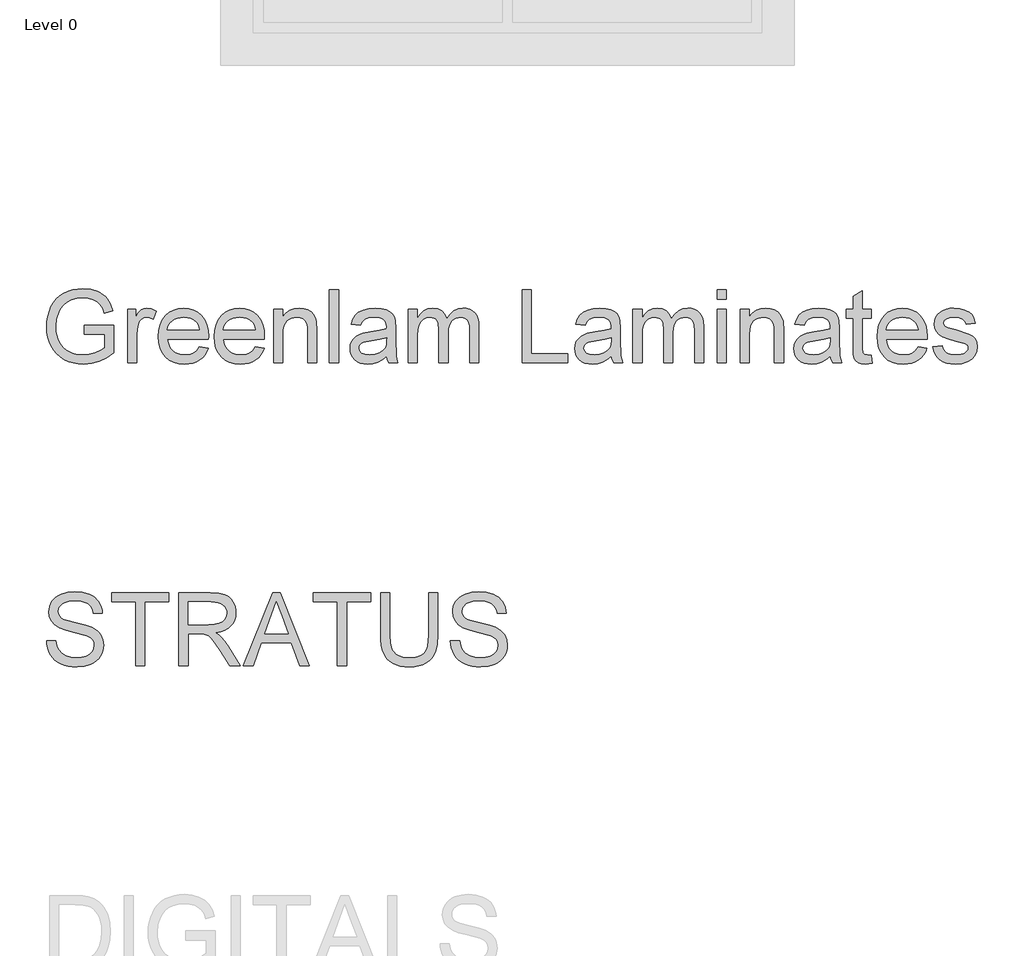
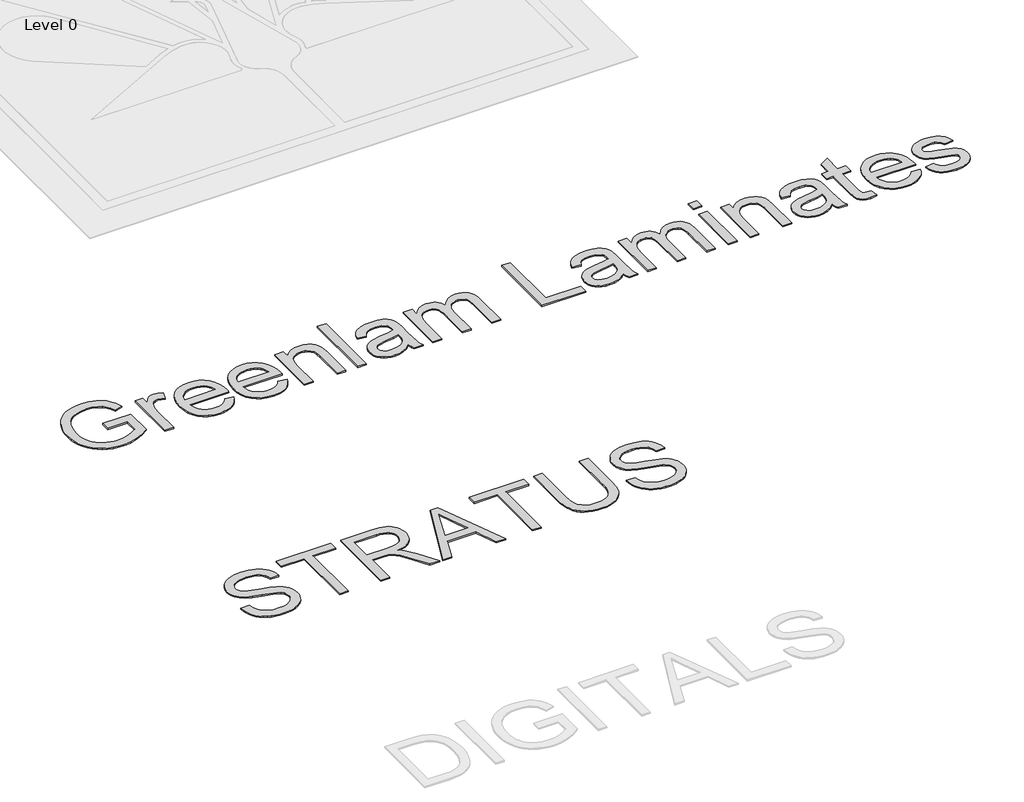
# One storey, part 2 of 2: 2 proxies.
"""IFC4 building model written with IfcOpenShell, lengths in millimetres."""

from ifc_helpers import new_model, si_unit, origin, origin_with_axes, place, context, project, spatial, polyline, outline, extrude, element, save

model = new_model("IFC4")

# Units and contexts
model_context = context("Model", 3, world=origin())
ifc_project = project(units=[si_unit("LENGTHUNIT", "METRE", prefix="MILLI")], contexts=[model_context])

# Site, building, storey
site = spatial("IfcSite", under=ifc_project)
building = spatial("IfcBuilding", under=site)
storey = spatial("IfcBuildingStorey", under=building, Name="Level 0", Elevation=0.0)

# Proxies
placement = place(None, origin())
element("IfcBuildingElementProxy", 1, Name="600mm Arial", ObjectType="600mm Arial", at=placement, inside=storey, context=model_context, shape_type="SweptSolid", body=[
    extrude(outline(polyline([(-10594.9298129, 2995.5724296), (-10594.9298129, 3070.9146622), (-10350.067557, 3070.9146622), (-10350.067557, 2845.6237284), (-10409.5724697, 2804.2370039), (-10470.9535806, 2774.5489269), (-10534.0637368, 2756.6698619), (-10598.7557857, 2750.7101736), (-10642.0325039, 2753.0784139), (-10683.2766741, 2760.183135), (-10722.4882962, 2772.0243367), (-10759.6673704, 2788.6020191), (-10793.6136815, 2809.6678618), (-10823.1270146, 2834.9735446), (-10848.2073696, 2864.5190673), (-10868.8547466, 2898.3044301), (-10884.9817735, 2935.2489794), (-10896.5010785, 2974.2720621), (-10903.4126615, 3015.373678), (-10905.7165225, 3058.5538272), (-10903.4218585, 3101.7385749), (-10896.5378667, 3143.4425975), (-10885.064547, 3183.6658952), (-10869.0018994, 3222.4084678), (-10848.6350324, 3257.9688612), (-10824.2490546, 3288.645621), (-10795.8439661, 3314.4387474), (-10763.4197667, 3335.3482403), (-10727.6800309, 3351.507457), (-10689.3283329, 3363.0497546), (-10648.3646727, 3369.9751331), (-10604.7890504, 3372.2835926), (-10542.7273578, 3366.9309096), (-10486.9196592, 3350.8728605), (-10462.0002525, 3339.1190308), (-10439.9227343, 3325.2682737), (-10420.6871045, 3309.3205892), (-10404.293363, 3291.2759773), (-10377.9346181, 3247.2588966), (-10358.749572, 3191.5799566), (-10428.2056927, 3172.0086345), (-10443.7119188, 3211.7214959), (-10462.5658711, 3241.6854844), (-10487.5082704, 3264.2734389), (-10521.2798375, 3281.8581982), (-10561.5445219, 3293.1705696), (-10605.9662728, 3296.94136), (-10657.9663928, 3292.876264), (-10702.4249319, 3280.6809758), (-10739.1763433, 3261.8822059), (-10768.0550799, 3238.0066644), (-10790.2199701, 3210.2867561), (-10806.8298422, 3179.9548856), (-10824.4881779, 3123.0803291), (-10830.3742899, 3061.6440359), (-10828.6038578, 3024.0235034), (-10823.2925615, 2989.5943472), (-10814.4404009, 2958.3565672), (-10802.0473762, 2930.3101636), (-10786.2744357, 2905.5609024), (-10767.2825277, 2884.2145496), (-10745.0716522, 2866.2711053), (-10719.6418093, 2851.7305695), (-10692.1840169, 2840.496373), (-10663.8892929, 2832.471947), (-10634.7576374, 2827.6572914), (-10604.7890504, 2826.0524062), (-10552.6049894, 2830.8900544), (-10501.7085154, 2845.4029992), (-10457.5074936, 2865.3973856), (-10425.4097896, 2886.679359), (-10425.4097896, 2995.5724296), (-10594.9298129, 2995.5724296)])), origin_with_axes(), (0.0, 0.0, 1.0), 10.0),
    extrude(outline(polyline([(-10237.054208, 2760.1279527), (-10237.054208, 3202.7635693), (-10171.1297545, 3202.7635693), (-10171.1297545, 3137.2805741), (-10146.7759664, 3175.245996), (-10124.3351647, 3197.6132213), (-10101.8207866, 3208.5393166), (-10077.2462693, 3212.1813483), (-10039.7223058, 3206.3688128), (-10001.6097311, 3188.9312062), (-10026.7728596, 3121.3880719), (-10053.2603632, 3132.9763548), (-10079.7478669, 3136.8391157), (-10102.2438509, 3133.1235076), (-10122.3486019, 3121.9766831), (-10138.590592, 3104.244771), (-10149.4982932, 3080.7738997), (-10158.6585549, 3038.6881994), (-10161.7119754, 2992.7765264), (-10161.7119754, 2760.1279527), (-10237.054208, 2760.1279527)])), origin_with_axes(), (0.0, 0.0, 1.0), 10.0),
    extrude(outline(polyline([(-9644.617043, 2891.9768597), (-9570.7463384, 2882.5590807), (-9582.0725053, 2852.9721712), (-9597.3626007, 2826.8985348), (-9616.6166246, 2804.3381714), (-9639.8345771, 2785.2910811), (-9666.7773347, 2770.1619341), (-9697.2057742, 2759.3554005), (-9731.1198956, 2752.8714803), (-9768.519699, 2750.7101736), (-9815.2683035, 2754.4395773), (-9856.9217424, 2765.6277885), (-9893.4800157, 2784.2748071), (-9924.9431233, 2810.3806332), (-9950.2442075, 2843.2186998), (-9968.3164106, 2882.06244), (-9979.1597324, 2926.9118537), (-9982.774173, 2977.766941), (-9979.1229442, 3030.3464752), (-9968.1692578, 3076.6904095), (-9949.9131138, 3116.798744), (-9924.3545121, 3150.6714788), (-9892.9741779, 3177.5820467), (-9857.2528362, 3196.8038809), (-9817.1904869, 3208.3369815), (-9772.7871301, 3212.1813483), (-9729.8139146, 3208.3461785), (-9690.9517803, 3196.8406691), (-9656.2007273, 3177.6648201), (-9625.5607557, 3150.8186315), (-9600.5493785, 3117.0194732), (-9582.6841091, 3076.9847151), (-9571.9649475, 3030.7143572), (-9568.3918936, 2978.2083994), (-9568.833352, 2957.9013133), (-9907.4319404, 2957.9013133), (-9903.0679402, 2927.8361572), (-9894.3905236, 2901.5050034), (-9881.3996907, 2878.9078519), (-9864.0954413, 2860.0447026), (-9843.4342688, 2845.1730729), (-9820.3726662, 2834.5504803), (-9794.9106336, 2828.1769247), (-9767.048171, 2826.0524062), (-9726.9490335, 2829.9887436), (-9693.1774664, 2841.7977556), (-9665.7334695, 2862.2152063), (-9644.617043, 2891.9768597)]), holes=[polyline([(-9907.4319404, 3033.2435459), (-9643.7341262, 3033.2435459), (-9653.9244575, 3073.0483778), (-9662.689246, 3088.7017567), (-9673.9004498, 3101.5224442), (-9694.4466593, 3116.973488), (-9717.82556, 3128.0099478), (-9744.0371522, 3134.6318238), (-9773.0814357, 3136.8391157), (-9799.5735379, 3135.0778807), (-9823.8675452, 3129.7941755), (-9845.9634575, 3120.9880003), (-9865.8612749, 3108.6593549), (-9882.558519, 3093.3784565), (-9895.0527112, 3075.7155222), (-9903.3438517, 3055.670552), (-9907.4319404, 3033.2435459)])]), origin_with_axes(), (0.0, 0.0, 1.0), 10.0),
    extrude(outline(polyline([(-9183.1458683, 2891.9768597), (-9109.2751636, 2882.5590807), (-9120.6013305, 2852.9721712), (-9135.891426, 2826.8985348), (-9155.1454499, 2804.3381714), (-9178.3634023, 2785.2910811), (-9205.3061599, 2770.1619341), (-9235.7345995, 2759.3554005), (-9269.6487209, 2752.8714803), (-9307.0485242, 2750.7101736), (-9353.7971288, 2754.4395773), (-9395.4505677, 2765.6277885), (-9432.0088409, 2784.2748071), (-9463.4719486, 2810.3806332), (-9488.7730328, 2843.2186998), (-9506.8452358, 2882.06244), (-9517.6885576, 2926.9118537), (-9521.3029982, 2977.766941), (-9517.6517694, 3030.3464752), (-9506.698083, 3076.6904095), (-9488.441939, 3116.798744), (-9462.8833374, 3150.6714788), (-9431.5030032, 3177.5820467), (-9395.7816615, 3196.8038809), (-9355.7193122, 3208.3369815), (-9311.3159554, 3212.1813483), (-9268.3427398, 3208.3461785), (-9229.4806055, 3196.8406691), (-9194.7295526, 3177.6648201), (-9164.0895809, 3150.8186315), (-9139.0782038, 3117.0194732), (-9121.2129344, 3076.9847151), (-9110.4937727, 3030.7143572), (-9106.9207189, 2978.2083994), (-9107.3621772, 2957.9013133), (-9445.9607656, 2957.9013133), (-9441.5967654, 2927.8361572), (-9432.9193489, 2901.5050034), (-9419.9285159, 2878.9078519), (-9402.6242666, 2860.0447026), (-9381.963094, 2845.1730729), (-9358.9014915, 2834.5504803), (-9333.4394589, 2828.1769247), (-9305.5769962, 2826.0524062), (-9265.4778588, 2829.9887436), (-9231.7062916, 2841.7977556), (-9204.2622948, 2862.2152063), (-9183.1458683, 2891.9768597)]), holes=[polyline([(-9445.9607656, 3033.2435459), (-9182.2629515, 3033.2435459), (-9192.4532827, 3073.0483778), (-9201.2180713, 3088.7017567), (-9212.4292751, 3101.5224442), (-9232.9754845, 3116.973488), (-9256.3543853, 3128.0099478), (-9282.5659775, 3134.6318238), (-9311.610261, 3136.8391157), (-9338.1023631, 3135.0778807), (-9362.3963704, 3129.7941755), (-9384.4922827, 3120.9880003), (-9404.3901002, 3108.6593549), (-9421.0873442, 3093.3784565), (-9433.5815365, 3075.7155222), (-9441.8726769, 3055.670552), (-9445.9607656, 3033.2435459)])]), origin_with_axes(), (0.0, 0.0, 1.0), 10.0),
    extrude(outline(polyline([(-9031.5784862, 2760.1279527), (-9031.5784862, 3202.7635693), (-8956.2362536, 3202.7635693), (-8956.2362536, 3140.9593941), (-8930.0614497, 3172.1189991), (-8898.6259332, 3194.3758598), (-8861.9297042, 3207.7299762), (-8819.9727626, 3212.1813483), (-8782.8350752, 3208.5944989), (-8748.8243847, 3197.8339505), (-8720.4606829, 3181.2424725), (-8700.2639614, 3160.1628342), (-8686.5603571, 3134.6502179), (-8677.6760069, 3104.7598058), (-8673.7028813, 3031.9191707), (-8673.7028813, 2760.1279527), (-8749.0451139, 2760.1279527), (-8749.0451139, 3021.7656276), (-8751.2156177, 3060.7243309), (-8757.727129, 3088.4258452), (-8769.7384762, 3108.2730788), (-8788.4084874, 3123.6689403), (-8812.3392112, 3133.5465719), (-8840.132696, 3136.8391157), (-8863.0103575, 3134.9905087), (-8884.2601413, 3129.4446876), (-8903.8820472, 3120.2016525), (-8921.8760753, 3107.2614033), (-8936.9086533, 3089.1524121), (-8947.646209, 3064.4031509), (-8954.0887425, 3033.0136196), (-8956.2362536, 2994.9838184), (-8956.2362536, 2760.1279527), (-9031.5784862, 2760.1279527)])), origin_with_axes(), (0.0, 0.0, 1.0), 10.0),
    extrude(outline(polyline([(-8570.1073115, 2760.1279527), (-8570.1073115, 3362.8658136), (-8494.7650789, 3362.8658136), (-8494.7650789, 2760.1279527), (-8570.1073115, 2760.1279527)])), origin_with_axes(), (0.0, 0.0, 1.0), 10.0),
    extrude(outline(polyline([(-8099.2183577, 2816.6346271), (-8135.2156109, 2785.7693277), (-8172.2797219, 2765.5726062), (-8211.2568193, 2754.4257817), (-8252.9930316, 2750.7101736), (-8286.5392711, 2752.9450567), (-8315.9560351, 2759.6497061), (-8341.2433238, 2770.8241217), (-8362.401137, 2786.4683035), (-8379.1075781, 2805.5889702), (-8391.0407503, 2827.1928404), (-8398.2006537, 2851.279914), (-8400.5872881, 2877.8501911), (-8396.9820446, 2909.0833725), (-8386.1663139, 2937.4470743), (-8369.4828654, 2961.727286), (-8348.2744684, 2980.709997), (-8323.3504632, 2995.0573948), (-8295.5201903, 3005.4316671), (-8230.3315007, 3016.7624325), (-8153.297011, 3028.6818092), (-8099.6598161, 3042.661325), (-8099.2183577, 3059.4367439), (-8104.4054938, 3093.0611583), (-8110.889414, 3105.5139638), (-8119.9669022, 3115.0605016), (-8135.6570693, 3124.5886453), (-8154.7685389, 3131.3944622), (-8203.2553859, 3136.8391157), (-8248.1369893, 3133.2154781), (-8279.4805353, 3122.3445651), (-8300.8544792, 3102.2398141), (-8315.8272764, 3070.9146622), (-8391.169509, 3080.3324413), (-8378.0913041, 3121.5352247), (-8358.5751643, 3153.9088403), (-8330.8000736, 3178.6672986), (-8292.9450163, 3197.0246101), (-8246.6470672, 3208.3921638), (-8193.5433012, 3212.1813483), (-8142.610039, 3208.8336222), (-8102.23499, 3198.7904437), (-8071.7927549, 3183.6888878), (-8050.6579343, 3165.1660294), (-8036.6416303, 3142.2653752), (-8027.554945, 3114.030432), (-8023.8761251, 3048.1059785), (-8023.8761251, 2954.3696461), (-8020.0501523, 2823.4772322), (-8014.3847696, 2791.1220108), (-8005.0405669, 2760.1279527), (-8080.3827995, 2760.1279527), (-8092.449329, 2786.3211507), (-8099.2183577, 2816.6346271)]), holes=[polyline([(-8099.2183577, 2967.3190924), (-8149.8389202, 2954.7743163), (-8220.7665689, 2944.2161031), (-8285.5873764, 2932.0024208), (-8302.4547659, 2923.6514995), (-8314.9443596, 2912.1367931), (-8322.6698815, 2898.3412183), (-8325.2450555, 2883.1476919), (-8319.6348551, 2860.7436784), (-8302.8042538, 2842.3863668), (-8275.1211337, 2830.1358964), (-8236.9533767, 2826.0524062), (-8196.4863572, 2830.5589606), (-8160.7282273, 2844.078624), (-8131.739126, 2863.999434), (-8111.5791927, 2887.7094286), (-8102.6396602, 2912.1367931), (-8099.6598161, 2945.9819366), (-8099.2183577, 2967.3190924)])]), origin_with_axes(), (0.0, 0.0, 1.0), 10.0),
    extrude(outline(polyline([(-7920.2805552, 2760.1279527), (-7920.2805552, 3202.7635693), (-7844.9383226, 3202.7635693), (-7844.9383226, 3129.9229342), (-7822.2767917, 3163.3818017), (-7793.1405377, 3189.5933938), (-7758.5228419, 3206.5343597), (-7719.4169858, 3212.1813483), (-7677.5152266, 3206.4239951), (-7659.6821469, 3199.2273036), (-7643.9276004, 3189.1519354), (-7618.8380484, 3161.5056035), (-7602.4305114, 3124.6254335), (-7574.9681204, 3162.9311462), (-7543.6429685, 3190.2923696), (-7508.4550557, 3206.7091037), (-7469.4043819, 3212.1813483), (-7439.2426568, 3209.9050785), (-7412.7689488, 3203.076269), (-7389.9832577, 3191.6949197), (-7370.8855836, 3175.7610308), (-7355.7886262, 3155.0906612), (-7345.0050853, 3129.4998699), (-7338.5349607, 3098.988657), (-7336.3782525, 3063.5570223), (-7336.3782525, 2760.1279527), (-7411.7204851, 2760.1279527), (-7411.7204851, 3031.1834067), (-7413.4679246, 3068.7625525), (-7418.710243, 3094.0912279), (-7428.5326923, 3111.436864), (-7444.0205243, 3125.0668919), (-7463.9413343, 3133.8960598), (-7487.0627177, 3136.8391157), (-7508.413669, 3134.9537205), (-7527.8792251, 3129.2975348), (-7545.4593859, 3119.8705587), (-7561.1541515, 3106.6727921), (-7574.062211, 3089.317959), (-7583.2822535, 3067.4197832), (-7588.814279, 3040.9782648), (-7590.6582875, 3009.9934038), (-7590.6582875, 2760.1279527), (-7666.0005201, 2760.1279527), (-7666.0005201, 3039.5711162), (-7670.3599218, 3082.1718512), (-7675.8091738, 3098.8920879), (-7683.4381267, 3112.5589041), (-7693.5502831, 3123.1814967), (-7706.4491455, 3130.7690628), (-7722.1347141, 3135.3216025), (-7740.6069888, 3136.8391157), (-7769.6328782, 3132.7924138), (-7796.3778992, 3120.6523079), (-7818.4508189, 3100.7131038), (-7833.4604044, 3073.269107), (-7842.068843, 3035.1933205), (-7844.9383226, 2983.3587473), (-7844.9383226, 2760.1279527), (-7920.2805552, 2760.1279527)])), origin_with_axes(), (0.0, 0.0, 1.0), 10.0),
    extrude(outline(polyline([(-6978.5026476, 2760.1279527), (-6978.5026476, 3362.8658136), (-6903.1604149, 3362.8658136), (-6903.1604149, 2835.4701853), (-6601.7914845, 2835.4701853), (-6601.7914845, 2760.1279527), (-6978.5026476, 2760.1279527)])), origin_with_axes(), (0.0, 0.0, 1.0), 10.0),
    extrude(outline(polyline([(-6243.9158796, 2816.6346271), (-6279.9131328, 2785.7693277), (-6316.9772438, 2765.5726062), (-6355.9543412, 2754.4257817), (-6397.6905536, 2750.7101736), (-6431.236793, 2752.9450567), (-6460.653557, 2759.6497061), (-6485.9408457, 2770.8241217), (-6507.0986589, 2786.4683035), (-6523.8051, 2805.5889702), (-6535.7382723, 2827.1928404), (-6542.8981756, 2851.279914), (-6545.28481, 2877.8501911), (-6541.6795665, 2909.0833725), (-6530.8638358, 2937.4470743), (-6514.1803873, 2961.727286), (-6492.9719903, 2980.709997), (-6468.0479852, 2995.0573948), (-6440.2177122, 3005.4316671), (-6375.0290227, 3016.7624325), (-6297.9945329, 3028.6818092), (-6244.357338, 3042.661325), (-6243.9158796, 3059.4367439), (-6249.1030157, 3093.0611583), (-6255.5869359, 3105.5139638), (-6264.6644241, 3115.0605016), (-6280.3545912, 3124.5886453), (-6299.4660609, 3131.3944622), (-6347.9529078, 3136.8391157), (-6392.8345112, 3133.2154781), (-6424.1780572, 3122.3445651), (-6445.5520011, 3102.2398141), (-6460.5247984, 3070.9146622), (-6535.867031, 3080.3324413), (-6522.788826, 3121.5352247), (-6503.2726862, 3153.9088403), (-6475.4975956, 3178.6672986), (-6437.6425383, 3197.0246101), (-6391.3445892, 3208.3921638), (-6338.2408232, 3212.1813483), (-6287.3075609, 3208.8336222), (-6246.932512, 3198.7904437), (-6216.4902768, 3183.6888878), (-6195.3554562, 3165.1660294), (-6181.3391522, 3142.2653752), (-6172.2524669, 3114.030432), (-6168.573647, 3048.1059785), (-6168.573647, 2954.3696461), (-6164.7476742, 2823.4772322), (-6159.0822915, 2791.1220108), (-6149.7380888, 2760.1279527), (-6225.0803214, 2760.1279527), (-6237.1468509, 2786.3211507), (-6243.9158796, 2816.6346271)]), holes=[polyline([(-6243.9158796, 2967.3190924), (-6294.5364421, 2954.7743163), (-6365.4640908, 2944.2161031), (-6430.2848983, 2932.0024208), (-6447.1522878, 2923.6514995), (-6459.6418816, 2912.1367931), (-6467.3674035, 2898.3412183), (-6469.9425774, 2883.1476919), (-6464.332377, 2860.7436784), (-6447.5017757, 2842.3863668), (-6419.8186556, 2830.1358964), (-6381.6508986, 2826.0524062), (-6341.1838791, 2830.5589606), (-6305.4257492, 2844.078624), (-6276.436648, 2863.999434), (-6256.2767146, 2887.7094286), (-6247.3371821, 2912.1367931), (-6244.357338, 2945.9819366), (-6243.9158796, 2967.3190924)])]), origin_with_axes(), (0.0, 0.0, 1.0), 10.0),
    extrude(outline(polyline([(-6064.9780771, 2760.1279527), (-6064.9780771, 3202.7635693), (-5989.6358445, 3202.7635693), (-5989.6358445, 3129.9229342), (-5966.9743136, 3163.3818017), (-5937.8380596, 3189.5933938), (-5903.2203639, 3206.5343597), (-5864.1145078, 3212.1813483), (-5822.2127485, 3206.4239951), (-5804.3796688, 3199.2273036), (-5788.6251224, 3189.1519354), (-5763.5355703, 3161.5056035), (-5747.1280333, 3124.6254335), (-5719.6656424, 3162.9311462), (-5688.3404905, 3190.2923696), (-5653.1525776, 3206.7091037), (-5614.1019038, 3212.1813483), (-5583.9401788, 3209.9050785), (-5557.4664707, 3203.076269), (-5534.6807796, 3191.6949197), (-5515.5831055, 3175.7610308), (-5500.4861482, 3155.0906612), (-5489.7026072, 3129.4998699), (-5483.2324826, 3098.988657), (-5481.0757744, 3063.5570223), (-5481.0757744, 2760.1279527), (-5556.418007, 2760.1279527), (-5556.418007, 3031.1834067), (-5558.1654465, 3068.7625525), (-5563.4077649, 3094.0912279), (-5573.2302142, 3111.436864), (-5588.7180462, 3125.0668919), (-5608.6388562, 3133.8960598), (-5631.7602396, 3136.8391157), (-5653.1111909, 3134.9537205), (-5672.576747, 3129.2975348), (-5690.1569078, 3119.8705587), (-5705.8516734, 3106.6727921), (-5718.759733, 3089.317959), (-5727.9797755, 3067.4197832), (-5733.511801, 3040.9782648), (-5735.3558095, 3009.9934038), (-5735.3558095, 2760.1279527), (-5810.6980421, 2760.1279527), (-5810.6980421, 3039.5711162), (-5815.0574437, 3082.1718512), (-5820.5066958, 3098.8920879), (-5828.1356486, 3112.5589041), (-5838.247805, 3123.1814967), (-5851.1466674, 3130.7690628), (-5866.832236, 3135.3216025), (-5885.3045107, 3136.8391157), (-5914.3304001, 3132.7924138), (-5941.0754212, 3120.6523079), (-5963.1483409, 3100.7131038), (-5978.1579263, 3073.269107), (-5986.766365, 3035.1933205), (-5989.6358445, 2983.3587473), (-5989.6358445, 2760.1279527), (-6064.9780771, 2760.1279527)])), origin_with_axes(), (0.0, 0.0, 1.0), 10.0),
    extrude(outline(polyline([(-5368.0624255, 3287.523581), (-5368.0624255, 3362.8658136), (-5292.7201929, 3362.8658136), (-5292.7201929, 3287.523581), (-5368.0624255, 3287.523581)])), origin_with_axes(), (0.0, 0.0, 1.0), 10.0),
    extrude(outline(polyline([(-5368.0624255, 2760.1279527), (-5368.0624255, 3202.7635693), (-5292.7201929, 3202.7635693), (-5292.7201929, 2760.1279527), (-5368.0624255, 2760.1279527)])), origin_with_axes(), (0.0, 0.0, 1.0), 10.0),
    extrude(outline(polyline([(-5179.7068439, 2760.1279527), (-5179.7068439, 3202.7635693), (-5104.3646113, 3202.7635693), (-5104.3646113, 3140.9593941), (-5078.1898074, 3172.1189991), (-5046.7542909, 3194.3758598), (-5010.0580619, 3207.7299762), (-4968.1011203, 3212.1813483), (-4930.9634329, 3208.5944989), (-4896.9527424, 3197.8339505), (-4868.5890406, 3181.2424725), (-4848.3923191, 3160.1628342), (-4834.6887148, 3134.6502179), (-4825.8043646, 3104.7598058), (-4821.831239, 3031.9191707), (-4821.831239, 2760.1279527), (-4897.1734716, 2760.1279527), (-4897.1734716, 3021.7656276), (-4899.3439754, 3060.7243309), (-4905.8554867, 3088.4258452), (-4917.8668339, 3108.2730788), (-4936.5368451, 3123.6689403), (-4960.4675689, 3133.5465719), (-4988.2610537, 3136.8391157), (-5011.1387152, 3134.9905087), (-5032.388499, 3129.4446876), (-5052.0104049, 3120.2016525), (-5070.004433, 3107.2614033), (-5085.037011, 3089.1524121), (-5095.7745667, 3064.4031509), (-5102.2171002, 3033.0136196), (-5104.3646113, 2994.9838184), (-5104.3646113, 2760.1279527), (-5179.7068439, 2760.1279527)])), origin_with_axes(), (0.0, 0.0, 1.0), 10.0),
    extrude(outline(polyline([(-4435.7022969, 2816.6346271), (-4471.6995501, 2785.7693277), (-4508.7636611, 2765.5726062), (-4547.7407585, 2754.4257817), (-4589.4769709, 2750.7101736), (-4623.0232103, 2752.9450567), (-4652.4399744, 2759.6497061), (-4677.727263, 2770.8241217), (-4698.8850762, 2786.4683035), (-4715.5915174, 2805.5889702), (-4727.5246896, 2827.1928404), (-4734.6845929, 2851.279914), (-4737.0712273, 2877.8501911), (-4733.4659838, 2909.0833725), (-4722.6502531, 2937.4470743), (-4705.9668047, 2961.727286), (-4684.7584076, 2980.709997), (-4659.8344025, 2995.0573948), (-4632.0041295, 3005.4316671), (-4566.81544, 3016.7624325), (-4489.7809502, 3028.6818092), (-4436.1437553, 3042.661325), (-4435.7022969, 3059.4367439), (-4440.889433, 3093.0611583), (-4447.3733532, 3105.5139638), (-4456.4508414, 3115.0605016), (-4472.1410085, 3124.5886453), (-4491.2524782, 3131.3944622), (-4539.7393251, 3136.8391157), (-4584.6209285, 3133.2154781), (-4615.9644745, 3122.3445651), (-4637.3384185, 3102.2398141), (-4652.3112157, 3070.9146622), (-4727.6534483, 3080.3324413), (-4714.5752433, 3121.5352247), (-4695.0591035, 3153.9088403), (-4667.2840129, 3178.6672986), (-4629.4289556, 3197.0246101), (-4583.1310065, 3208.3921638), (-4530.0272405, 3212.1813483), (-4479.0939782, 3208.8336222), (-4438.7189293, 3198.7904437), (-4408.2766942, 3183.6888878), (-4387.1418735, 3165.1660294), (-4373.1255695, 3142.2653752), (-4364.0388842, 3114.030432), (-4360.3600643, 3048.1059785), (-4360.3600643, 2954.3696461), (-4356.5340915, 2823.4772322), (-4350.8687088, 2791.1220108), (-4341.5245061, 2760.1279527), (-4416.8667387, 2760.1279527), (-4428.9332682, 2786.3211507), (-4435.7022969, 2816.6346271)]), holes=[polyline([(-4435.7022969, 2967.3190924), (-4486.3228594, 2954.7743163), (-4557.2505081, 2944.2161031), (-4622.0713157, 2932.0024208), (-4638.9387051, 2923.6514995), (-4651.4282989, 2912.1367931), (-4659.1538208, 2898.3412183), (-4661.7289947, 2883.1476919), (-4656.1187943, 2860.7436784), (-4639.288193, 2842.3863668), (-4611.6050729, 2830.1358964), (-4573.4373159, 2826.0524062), (-4532.9702964, 2830.5589606), (-4497.2121665, 2844.078624), (-4468.2230653, 2863.999434), (-4448.0631319, 2887.7094286), (-4439.1235995, 2912.1367931), (-4436.1437553, 2945.9819366), (-4435.7022969, 2967.3190924)])]), origin_with_axes(), (0.0, 0.0, 1.0), 10.0),
    extrude(outline(polyline([(-4096.6622501, 2822.9621974), (-4087.2444711, 2757.9206607), (-4143.6039927, 2750.7101736), (-4179.7667929, 2753.8371706), (-4206.7325431, 2763.2181614), (-4225.7888304, 2777.6759238), (-4238.2232419, 2796.0332354), (-4245.065847, 2827.5607224), (-4247.3467154, 2881.5290111), (-4247.3467154, 3127.4213367), (-4303.8533898, 3127.4213367), (-4303.8533898, 3202.7635693), (-4247.3467154, 3202.7635693), (-4247.3467154, 3310.3322647), (-4172.0044828, 3354.6252569), (-4172.0044828, 3202.7635693), (-4096.6622501, 3202.7635693), (-4096.6622501, 3127.4213367), (-4172.0044828, 3127.4213367), (-4172.0044828, 2883.7363031), (-4168.0313572, 2844.8879644), (-4155.1554874, 2831.1291777), (-4144.2845744, 2827.3215991), (-4129.4773241, 2826.0524062), (-4096.6622501, 2822.9621974)])), origin_with_axes(), (0.0, 0.0, 1.0), 10.0),
    extrude(outline(polyline([(-3711.4162248, 2891.9768597), (-3637.5455202, 2882.5590807), (-3648.8716871, 2852.9721712), (-3664.1617825, 2826.8985348), (-3683.4158064, 2804.3381714), (-3706.6337589, 2785.2910811), (-3733.5765165, 2770.1619341), (-3764.004956, 2759.3554005), (-3797.9190774, 2752.8714803), (-3835.3188808, 2750.7101736), (-3882.0674853, 2754.4395773), (-3923.7209242, 2765.6277885), (-3960.2791975, 2784.2748071), (-3991.7423051, 2810.3806332), (-4017.0433893, 2843.2186998), (-4035.1155923, 2882.06244), (-4045.9589142, 2926.9118537), (-4049.5733548, 2977.766941), (-4045.922126, 3030.3464752), (-4034.9684396, 3076.6904095), (-4016.7122955, 3116.798744), (-3991.1536939, 3150.6714788), (-3959.7733597, 3177.5820467), (-3924.052018, 3196.8038809), (-3883.9896687, 3208.3369815), (-3839.5863119, 3212.1813483), (-3796.6130964, 3208.3461785), (-3757.7509621, 3196.8406691), (-3722.9999091, 3177.6648201), (-3692.3599374, 3150.8186315), (-3667.3485603, 3117.0194732), (-3649.4832909, 3076.9847151), (-3638.7641293, 3030.7143572), (-3635.1910754, 2978.2083994), (-3635.6325338, 2957.9013133), (-3974.2311221, 2957.9013133), (-3969.867122, 2927.8361572), (-3961.1897054, 2901.5050034), (-3948.1988725, 2878.9078519), (-3930.8946231, 2860.0447026), (-3910.2334506, 2845.1730729), (-3887.171848, 2834.5504803), (-3861.7098154, 2828.1769247), (-3833.8473528, 2826.0524062), (-3793.7482153, 2829.9887436), (-3759.9766482, 2841.7977556), (-3732.5326513, 2862.2152063), (-3711.4162248, 2891.9768597)]), holes=[polyline([(-3974.2311221, 3033.2435459), (-3710.533308, 3033.2435459), (-3720.7236393, 3073.0483778), (-3729.4884278, 3088.7017567), (-3740.6996316, 3101.5224442), (-3761.245841, 3116.973488), (-3784.6247418, 3128.0099478), (-3810.836334, 3134.6318238), (-3839.8806175, 3136.8391157), (-3866.3727197, 3135.0778807), (-3890.6667269, 3129.7941755), (-3912.7626393, 3120.9880003), (-3932.6604567, 3108.6593549), (-3949.3577007, 3093.3784565), (-3961.851893, 3075.7155222), (-3970.1430335, 3055.670552), (-3974.2311221, 3033.2435459)])]), origin_with_axes(), (0.0, 0.0, 1.0), 10.0),
    extrude(outline(polyline([(-3588.10218, 2891.9768597), (-3512.7599474, 2901.3946388), (-3508.2074077, 2884.2145496), (-3500.877359, 2869.168176), (-3490.7698011, 2856.255518), (-3477.8847343, 2845.4765756), (-3462.1853701, 2836.9785015), (-3443.6349205, 2830.9084485), (-3397.9807649, 2826.0524062), (-3352.8784323, 2830.5037783), (-3335.3488552, 2836.0679935), (-3321.1670043, 2843.8578948), (-3302.4050226, 2863.2084877), (-3297.7145271, 2874.0426125), (-3296.1510286, 2885.6492894), (-3297.7237242, 2895.8212266), (-3302.4418108, 2904.8527296), (-3321.3141571, 2919.494433), (-3349.5307061, 2929.0593649), (-3398.8636817, 2940.9787415), (-3467.6208266, 2960.8627633), (-3512.318489, 2977.8405174), (-3541.0316787, 2996.3633759), (-3561.8354056, 3020.8827109), (-3574.4721521, 3049.8350239), (-3578.6844009, 3081.6568165), (-3575.2998866, 3110.8482528), (-3565.1463435, 3137.7956089), (-3549.1434767, 3161.4320271), (-3528.2109912, 3180.6906496), (-3507.4072644, 3192.8123613), (-3480.3127554, 3202.9842985), (-3448.9876035, 3209.8820859), (-3415.4919479, 3212.1813483), (-3366.4532779, 3208.4841343), (-3323.8157547, 3197.3924921), (-3289.5291527, 3179.9916738), (-3265.5432466, 3157.3669311), (-3249.6507444, 3127.844401), (-3239.6443542, 3089.7502203), (-3314.9865868, 3080.3324413), (-3324.4963364, 3104.0424359), (-3343.3135004, 3121.9031067), (-3371.6220199, 3133.1051135), (-3409.605836, 3136.8391157), (-3452.8687586, 3133.2706604), (-3481.710707, 3122.5652943), (-3497.934303, 3107.1142505), (-3503.3421683, 3089.308762), (-3501.0980882, 3077.7204791), (-3494.3658476, 3067.382995), (-3482.8511412, 3058.149157), (-3466.2596632, 3050.7547289), (-3401.3652793, 3034.7150739), (-3290.7799515, 2999.2512495), (-3261.5701211, 2982.2918896), (-3239.423625, 2959.0785357), (-3225.4625033, 2929.5376115), (-3220.808796, 2893.5955405), (-3226.2718437, 2856.439459), (-3242.6609865, 2821.4906695), (-3269.3508253, 2791.4898928), (-3305.7159605, 2769.1778498), (-3349.6410707, 2755.3270926), (-3399.0108345, 2750.7101736), (-3439.5606274, 2752.9358597), (-3474.9784665, 2759.6129179), (-3505.2643517, 2770.7413482), (-3530.4182832, 2786.3211507), (-3550.9644926, 2806.278749), (-3567.4272119, 2830.5405665), (-3579.806441, 2859.1066035), (-3588.10218, 2891.9768597)])), origin_with_axes(), (0.0, 0.0, 1.0), 10.0),
])
element("IfcBuildingElementProxy", 2, Name="600mm Arial", ObjectType="600mm Arial", at=placement, inside=storey, context=model_context, shape_type="SweptSolid", body=[
    extrude(outline(polyline([(-10905.7165225, 467.3190924), (-10830.3742899, 467.3190924), (-10821.729063, 425.5093036), (-10806.0940782, 391.9032833), (-10781.7035019, 365.2318387), (-10746.7915006, 344.2257768), (-10704.1171891, 330.5957488), (-10656.4396825, 326.0524062), (-10614.4643469, 329.4921029), (-10577.7129356, 339.8111928), (-10547.9328881, 356.1451534), (-10526.8716438, 377.6294619), (-10514.3452619, 402.2959497), (-10510.1698013, 428.1764481), (-10513.2967982, 453.3947588), (-10522.6777891, 475.1917671), (-10541.7340764, 493.7882019), (-10573.8869628, 509.4047926), (-10683.5893738, 538.1731646), (-10755.6022743, 557.2110579), (-10801.6794942, 575.3292461), (-10839.1850636, 600.6763156), (-10865.7645378, 631.3944622), (-10881.6018577, 666.8214983), (-10886.8809643, 706.2952364), (-10885.248488, 728.7314396), (-10880.3510589, 750.4226817), (-10872.1886771, 771.3689628), (-10860.7613427, 791.5702829), (-10846.1978142, 810.203506), (-10828.6268504, 826.445496), (-10808.0484513, 840.2962532), (-10784.4626169, 851.7557773), (-10731.4508214, 867.1516388), (-10672.7736431, 872.2835926), (-10609.2036344, 866.9125155), (-10553.5798767, 850.7992841), (-10529.2444827, 838.797134), (-10507.8889329, 824.2749923), (-10489.5132272, 807.2328588), (-10474.1173657, 787.6707338), (-10461.82091, 766.1588341), (-10452.7434218, 743.2673769), (-10446.884901, 718.9963623), (-10444.2453477, 693.3457902), (-10519.5875803, 693.3457902), (-10524.6275637, 717.3868786), (-10533.4199434, 738.30097), (-10545.9647194, 756.0880645), (-10562.2618918, 770.748162), (-10582.6149632, 782.2076861), (-10607.3274362, 790.3930605), (-10636.3993109, 795.3042852), (-10669.8305872, 796.94136), (-10704.3287213, 795.3226793), (-10733.8052661, 790.4666369), (-10758.2602218, 782.373233), (-10777.6935881, 771.0424676), (-10792.5008385, 757.4216367), (-10803.0774458, 742.4580365), (-10809.4234102, 726.1516671), (-10811.5387317, 708.5025284), (-10810.0396126, 693.318199), (-10805.5422552, 679.5502154), (-10798.0466595, 667.1985774), (-10787.5528256, 656.2632851), (-10771.034924, 645.9074069), (-10745.025667, 635.4411642), (-10664.5330864, 614.1775848), (-10581.4653319, 593.9808633), (-10531.2126514, 576.3593157), (-10488.2624284, 549.0256835), (-10471.6571549, 532.9584373), (-10458.2984399, 515.2909045), (-10448.0299337, 496.1150555), (-10440.6952865, 475.5228608), (-10434.8275686, 430.0894344), (-10436.5152273, 406.5219941), (-10441.5782033, 383.6443326), (-10450.0164965, 361.4564497), (-10461.8301071, 339.9583456), (-10476.8121013, 319.9823533), (-10494.7555457, 302.3608057), (-10515.66044, 287.0937029), (-10539.5267845, 274.1810449), (-10565.6602017, 263.9125387), (-10593.3663145, 256.5778914), (-10653.4966266, 250.7101736), (-10692.0368641, 252.2920662), (-10727.3121489, 257.0377439), (-10759.322481, 264.9472068), (-10788.0678604, 276.0204549), (-10813.7230311, 290.2758822), (-10836.4627369, 307.7318828), (-10856.2869779, 328.3884569), (-10873.1957541, 352.2456043), (-10886.816585, 378.5307728), (-10896.77699, 406.4714104), (-10903.0769692, 436.0675169), (-10905.7165225, 467.3190924)])), origin_with_axes(), (0.0, 0.0, 1.0), 10.0),
    extrude(outline(polyline([(-10171.1297545, 260.1279527), (-10171.1297545, 787.523581), (-10368.9031151, 787.523581), (-10368.9031151, 862.8658136), (-9898.0141613, 862.8658136), (-9898.0141613, 787.523581), (-10095.7875219, 787.523581), (-10095.7875219, 260.1279527), (-10171.1297545, 260.1279527)])), origin_with_axes(), (0.0, 0.0, 1.0), 10.0),
    extrude(outline(polyline([(-9813.2541496, 260.1279527), (-9813.2541496, 862.8658136), (-9553.529461, 862.8658136), (-9483.7238524, 858.8007175), (-9432.937743, 846.6054294), (-9413.3388297, 836.9117388), (-9395.8184497, 824.0910513), (-9380.3766029, 808.1433668), (-9367.0132894, 789.0686853), (-9356.2297485, 767.892478), (-9348.5272192, 745.6402158), (-9343.9057016, 722.3118988), (-9342.3651958, 697.9075269), (-9344.9173771, 666.950257), (-9352.5739211, 638.5313729), (-9365.3348278, 612.6508745), (-9383.2000972, 589.308762), (-9406.3996556, 569.2499962), (-9435.1634291, 553.2195382), (-9469.4914177, 541.2173881), (-9509.3836216, 533.2435459), (-9484.5515869, 517.0199499), (-9466.5621573, 501.0170831), (-9435.6968579, 464.4128246), (-9405.4937461, 423.4675585), (-9304.9883851, 260.1279527), (-9392.5442999, 260.1279527), (-9470.9767413, 385.0606782), (-9527.6305685, 467.7605507), (-9548.6918128, 491.8752155), (-9567.4354004, 506.8296186), (-9603.2671067, 521.1770164), (-9646.9714878, 523.8257668), (-9737.911917, 523.8257668), (-9737.911917, 260.1279527), (-9813.2541496, 260.1279527)]), holes=[polyline([(-9737.911917, 599.1679994), (-9569.2748104, 599.1679994), (-9520.8431457, 601.8351439), (-9483.2639999, 609.8365773), (-9454.9738745, 623.7057285), (-9434.409271, 643.9760264), (-9421.882889, 668.4953614), (-9417.7074284, 695.1116238), (-9419.6985897, 714.3794433), (-9425.6720736, 731.8630351), (-9435.6278801, 747.5623992), (-9449.5660092, 761.4775357), (-9467.8083576, 772.8726805), (-9490.6768221, 781.0120696), (-9518.1714027, 785.8957031), (-9550.2920994, 787.523581), (-9737.911917, 787.523581), (-9737.911917, 599.1679994)])]), origin_with_axes(), (0.0, 0.0, 1.0), 10.0),
    extrude(outline(polyline([(-9280.7081734, 260.1279527), (-9040.1133485, 862.8658136), (-8975.9547286, 862.8658136), (-8735.3599037, 260.1279527), (-8814.9695675, 260.1279527), (-8883.9842298, 448.4835342), (-9132.2310001, 448.4835342), (-9201.0985096, 260.1279527), (-9280.7081734, 260.1279527)]), holes=[polyline([(-9104.5662741, 523.8257668), (-8911.501803, 523.8257668), (-8965.8011855, 672.0086345), (-9008.0340386, 787.523581), (-9045.5580021, 684.9580807), (-9104.5662741, 523.8257668)])]), origin_with_axes(), (0.0, 0.0, 1.0), 10.0),
    extrude(outline(polyline([(-8504.182858, 260.1279527), (-8504.182858, 787.523581), (-8701.9562186, 787.523581), (-8701.9562186, 862.8658136), (-8231.0672647, 862.8658136), (-8231.0672647, 787.523581), (-8428.8406253, 787.523581), (-8428.8406253, 260.1279527), (-8504.182858, 260.1279527)])), origin_with_axes(), (0.0, 0.0, 1.0), 10.0),
    extrude(outline(polyline([(-7750.7605318, 862.8658136), (-7675.4182992, 862.8658136), (-7675.4182992, 515.1437517), (-7680.531859, 433.7130721), (-7686.9238086, 400.0196799), (-7695.8725382, 371.007586), (-7708.1505997, 345.5777431), (-7724.5305456, 322.6311037), (-7745.0123757, 302.1676677), (-7769.59609, 284.1874352), (-7798.3092797, 269.5411332), (-7831.179536, 259.079489), (-7868.2068588, 252.8025024), (-7909.3912482, 250.7101736), (-7949.5593635, 252.5311895), (-7985.8923091, 257.9942371), (-8018.3900848, 267.0993165), (-8047.0526907, 279.8464276), (-8071.8847254, 296.047031), (-8092.8907873, 315.512587), (-8110.0708765, 338.2430958), (-8123.4249929, 364.2385573), (-8133.4359817, 394.3910853), (-8140.586688, 429.5927937), (-8144.8771118, 469.8436825), (-8146.307253, 515.1437517), (-8146.307253, 862.8658136), (-8070.9650204, 862.8658136), (-8070.9650204, 517.7925021), (-8067.2494123, 450.0838209), (-8056.1025878, 402.9397432), (-8047.3377993, 385.5619175), (-8035.9058663, 370.2902161), (-8021.8067888, 357.1246392), (-8005.0405669, 346.0651867), (-7964.7942766, 331.0556013), (-7916.4545825, 326.0524062), (-7874.9299023, 328.5264126), (-7839.8247629, 335.9484319), (-7811.1391643, 348.318464), (-7788.8731065, 365.6365089), (-7772.1988551, 389.990297), (-7760.2886755, 423.4675585), (-7753.1425678, 466.0682936), (-7750.7605318, 517.7925021), (-7750.7605318, 862.8658136)])), origin_with_axes(), (0.0, 0.0, 1.0), 10.0),
    extrude(outline(polyline([(-7571.8227294, 467.3190924), (-7496.4804968, 467.3190924), (-7487.8352699, 425.5093036), (-7472.2002851, 391.9032833), (-7447.8097088, 365.2318387), (-7412.8977075, 344.2257768), (-7370.223396, 330.5957488), (-7322.5458894, 326.0524062), (-7280.5705538, 329.4921029), (-7243.8191425, 339.8111928), (-7214.039095, 356.1451534), (-7192.9778507, 377.6294619), (-7180.4514688, 402.2959497), (-7176.2760082, 428.1764481), (-7179.4030051, 453.3947588), (-7188.783996, 475.1917671), (-7207.8402834, 493.7882019), (-7239.9931697, 509.4047926), (-7349.6955807, 538.1731646), (-7421.7084812, 557.2110579), (-7467.7857011, 575.3292461), (-7505.2912706, 600.6763156), (-7531.8707447, 631.3944622), (-7547.7080646, 666.8214983), (-7552.9871712, 706.2952364), (-7551.3546949, 728.7314396), (-7546.4572658, 750.4226817), (-7538.294884, 771.3689628), (-7526.8675496, 791.5702829), (-7512.3040211, 810.203506), (-7494.7330573, 826.445496), (-7474.1546582, 840.2962532), (-7450.5688238, 851.7557773), (-7397.5570283, 867.1516388), (-7338.87985, 872.2835926), (-7275.3098413, 866.9125155), (-7219.6860836, 850.7992841), (-7195.3506896, 838.797134), (-7173.9951398, 824.2749923), (-7155.6194341, 807.2328588), (-7140.2235726, 787.6707338), (-7127.927117, 766.1588341), (-7118.8496287, 743.2673769), (-7112.9911079, 718.9963623), (-7110.3515546, 693.3457902), (-7185.6937872, 693.3457902), (-7190.7337706, 717.3868786), (-7199.5261503, 738.30097), (-7212.0709263, 756.0880645), (-7228.3680987, 770.748162), (-7248.7211701, 782.2076861), (-7273.4336431, 790.3930605), (-7302.5055178, 795.3042852), (-7335.9367941, 796.94136), (-7370.4349282, 795.3226793), (-7399.911473, 790.4666369), (-7424.3664287, 782.373233), (-7443.7997951, 771.0424676), (-7458.6070454, 757.4216367), (-7469.1836527, 742.4580365), (-7475.5296171, 726.1516671), (-7477.6449386, 708.5025284), (-7476.1458195, 693.318199), (-7471.6484621, 679.5502154), (-7464.1528664, 667.1985774), (-7453.6590325, 656.2632851), (-7437.1411309, 645.9074069), (-7411.1318739, 635.4411642), (-7330.6392933, 614.1775848), (-7247.5715388, 593.9808633), (-7197.3188583, 576.3593157), (-7154.3686354, 549.0256835), (-7137.7633618, 532.9584373), (-7124.4046468, 515.2909045), (-7114.1361407, 496.1150555), (-7106.8014934, 475.5228608), (-7100.9337756, 430.0894344), (-7102.6214342, 406.5219941), (-7107.6844102, 383.6443326), (-7116.1227034, 361.4564497), (-7127.936314, 339.9583456), (-7142.9183083, 319.9823533), (-7160.8617526, 302.3608057), (-7181.7666469, 287.0937029), (-7205.6329914, 274.1810449), (-7231.7664086, 263.9125387), (-7259.4725214, 256.5778914), (-7319.6028335, 250.7101736), (-7358.143071, 252.2920662), (-7393.4183558, 257.0377439), (-7425.4286879, 264.9472068), (-7454.1740673, 276.0204549), (-7479.829238, 290.2758822), (-7502.5689438, 307.7318828), (-7522.3931848, 328.3884569), (-7539.301961, 352.2456043), (-7552.9227919, 378.5307728), (-7562.8831969, 406.4714104), (-7569.1831761, 436.0675169), (-7571.8227294, 467.3190924)])), origin_with_axes(), (0.0, 0.0, 1.0), 10.0),
])

save(model, "model.ifc")
